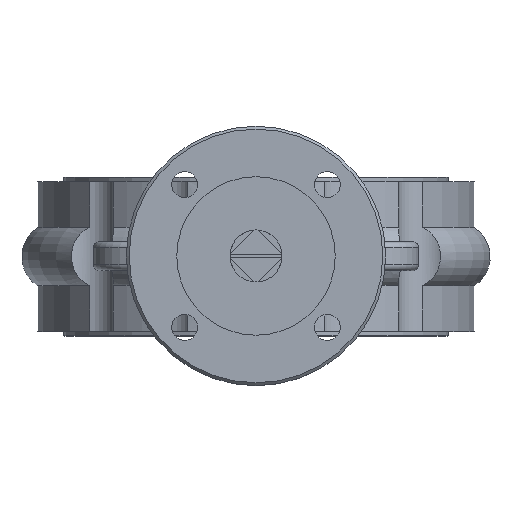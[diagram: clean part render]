
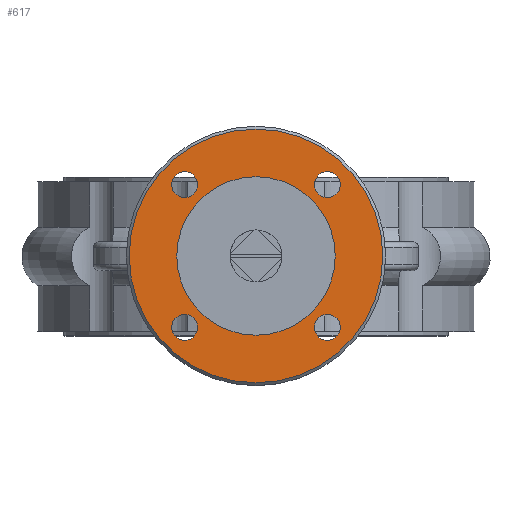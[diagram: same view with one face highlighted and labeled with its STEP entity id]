
A CAD part, top view. The second image highlights one B-rep face of the part: STEP entity #617.
In plain terms, the highlighted planar face has unit normal (0, 0, 1).
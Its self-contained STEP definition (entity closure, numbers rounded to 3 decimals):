
#617 = ADVANCED_FACE( '', ( #1317, #1318, #1319, #1320, #1321, #1322 ), #1323, .F. );
#1317 = FACE_BOUND( '', #5447, .T. );
#1318 = FACE_BOUND( '', #5448, .T. );
#1319 = FACE_BOUND( '', #5449, .T. );
#1320 = FACE_OUTER_BOUND( '', #5450, .T. );
#1321 = FACE_BOUND( '', #5451, .T. );
#1322 = FACE_BOUND( '', #5452, .T. );
#1323 = PLANE( '', #5453 );
#5447 = EDGE_LOOP( '', ( #8336 ) );
#5448 = EDGE_LOOP( '', ( #8337 ) );
#5449 = EDGE_LOOP( '', ( #8338 ) );
#5450 = EDGE_LOOP( '', ( #8339 ) );
#5451 = EDGE_LOOP( '', ( #8340 ) );
#5452 = EDGE_LOOP( '', ( #8341 ) );
#5453 = AXIS2_PLACEMENT_3D( '', #8342, #8343, #8344 );
#8336 = ORIENTED_EDGE( '', *, *, #8988, .T. );
#8337 = ORIENTED_EDGE( '', *, *, #9259, .T. );
#8338 = ORIENTED_EDGE( '', *, *, #9177, .T. );
#8339 = ORIENTED_EDGE( '', *, *, #8936, .T. );
#8340 = ORIENTED_EDGE( '', *, *, #9666, .T. );
#8341 = ORIENTED_EDGE( '', *, *, #9667, .T. );
#8342 = CARTESIAN_POINT( '', ( 0., 27.5, 153. ) );
#8343 = DIRECTION( '', ( 0., 0., -1. ) );
#8344 = DIRECTION( '', ( 0., -1., 0. ) );
#8936 = EDGE_CURVE( '', #9828, #9828, #9829, .T. );
#8988 = EDGE_CURVE( '', #9921, #9921, #9922, .T. );
#9177 = EDGE_CURVE( '', #10250, #10250, #10251, .T. );
#9259 = EDGE_CURVE( '', #10381, #10381, #10382, .T. );
#9666 = EDGE_CURVE( '', #10935, #10935, #10936, .T. );
#9667 = EDGE_CURVE( '', #10937, #10937, #10938, .T. );
#9828 = VERTEX_POINT( '', #11263 );
#9829 = CIRCLE( '', #11264, 44. );
#9921 = VERTEX_POINT( '', #11521 );
#9922 = CIRCLE( '', #11522, 27.5 );
#10250 = VERTEX_POINT( '', #13213 );
#10251 = CIRCLE( '', #13214, 4.5 );
#10381 = VERTEX_POINT( '', #13688 );
#10382 = CIRCLE( '', #13689, 4.5 );
#10935 = VERTEX_POINT( '', #15843 );
#10936 = CIRCLE( '', #15844, 4.5 );
#10937 = VERTEX_POINT( '', #15845 );
#10938 = CIRCLE( '', #15846, 4.5 );
#11263 = CARTESIAN_POINT( '', ( -44., 27.5, 153. ) );
#11264 = AXIS2_PLACEMENT_3D( '', #16241, #16242, #16243 );
#11521 = CARTESIAN_POINT( '', ( -27.5, 27.5, 153. ) );
#11522 = AXIS2_PLACEMENT_3D( '', #16313, #16314, #16315 );
#13213 = CARTESIAN_POINT( '', ( 20.249, 2.751, 153. ) );
#13214 = AXIS2_PLACEMENT_3D( '', #16526, #16527, #16528 );
#13688 = CARTESIAN_POINT( '', ( -29.249, 2.751, 153. ) );
#13689 = AXIS2_PLACEMENT_3D( '', #16617, #16618, #16619 );
#15843 = CARTESIAN_POINT( '', ( -29.249, 52.249, 153. ) );
#15844 = AXIS2_PLACEMENT_3D( '', #17103, #17104, #17105 );
#15845 = CARTESIAN_POINT( '', ( 20.249, 52.249, 153. ) );
#15846 = AXIS2_PLACEMENT_3D( '', #17106, #17107, #17108 );
#16241 = CARTESIAN_POINT( '', ( 0., 27.5, 153. ) );
#16242 = DIRECTION( '', ( 0., 0., 1. ) );
#16243 = DIRECTION( '', ( -1., 0., 0. ) );
#16313 = CARTESIAN_POINT( '', ( 0., 27.5, 153. ) );
#16314 = DIRECTION( '', ( 0., 0., -1. ) );
#16315 = DIRECTION( '', ( -1., 0., 0. ) );
#16526 = CARTESIAN_POINT( '', ( 24.749, 2.751, 153. ) );
#16527 = DIRECTION( '', ( 0., 0., -1. ) );
#16528 = DIRECTION( '', ( -1., 0., 0. ) );
#16617 = CARTESIAN_POINT( '', ( -24.749, 2.751, 153. ) );
#16618 = DIRECTION( '', ( 0., 0., -1. ) );
#16619 = DIRECTION( '', ( -1., 0., 0. ) );
#17103 = CARTESIAN_POINT( '', ( -24.749, 52.249, 153. ) );
#17104 = DIRECTION( '', ( 0., 0., -1. ) );
#17105 = DIRECTION( '', ( -1., 0., 0. ) );
#17106 = CARTESIAN_POINT( '', ( 24.749, 52.249, 153. ) );
#17107 = DIRECTION( '', ( 0., 0., -1. ) );
#17108 = DIRECTION( '', ( -1., 0., 0. ) );
